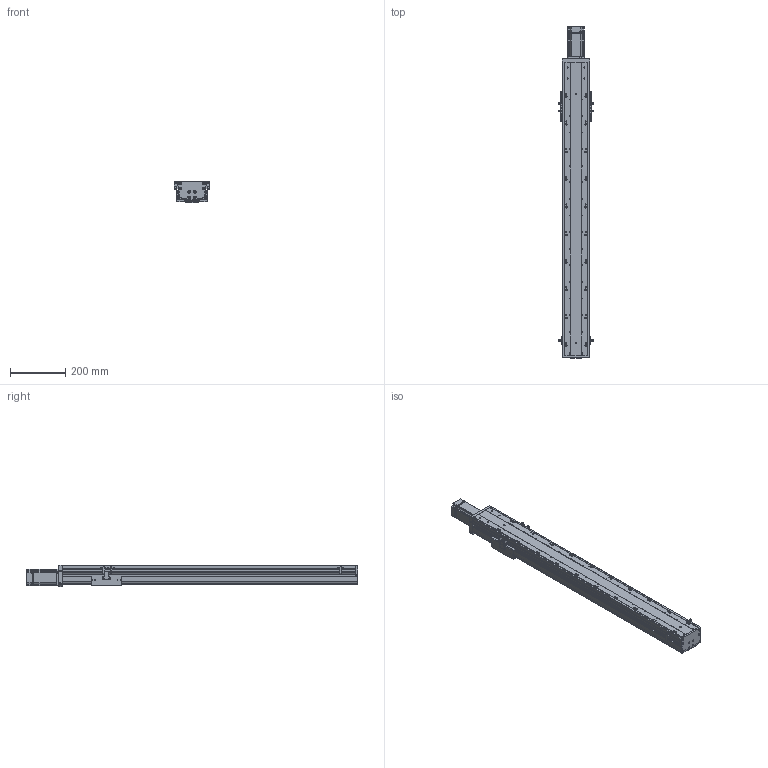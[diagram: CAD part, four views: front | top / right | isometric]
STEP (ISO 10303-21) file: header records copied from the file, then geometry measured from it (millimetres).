
FILE_DESCRIPTION (( 'STEP AP203' ), '1' );
FILE_NAME ('RY100FBS-L1610-300-MK(15双轨）.SLDASM_800.step', '2021-02-22T08:44:31', ( '盈信电脑' ), ( '东莞市道滘镇水果街19号' ), 'SwSTEP 2.0', 'SolidWorks 2012', '' );
FILE_SCHEMA (( 'CONFIG_CONTROL_DESIGN' ));
Length unit declared in the file: millimetre
Products named in the file (12): 覜茼ん672; RY100FB-遵嫖萇覜茼え; RY100FBS-L1610-300-MK(15双轨）.SLDASM_800; RY100FBS-后盖板(15双轨）; 15; RY100FBS-前盖板(15双轨）; 侂狟400W侜督萇儂; RY100FBS-铝滑块（16丝杆）; 滅袉蝶18-15; RY100FBS-300-上盖板(15双轨）_800; 滅袉蝶18-24; RY100FBS-300型材底座(15双轨）_800
Assembly tree (18 placements, depth 3):
  RY100FBS-L1610-300-MK(15双轨）.SLDASM_800
    RY100FBS-300型材底座(15双轨）_800
    滅袉蝶18-24  x2
    滅袉蝶18-15
    RY100FBS-铝滑块（16丝杆）
    RY100FBS-300-上盖板(15双轨）_800
    RY100FBS-前盖板(15双轨）
    RY100FBS-后盖板(15双轨）
    侂狟400W侜督萇儂
      15
    RY100FB-遵嫖萇覜茼え  x2
    覜茼ん672  x6
Bounding box: 127.4 x 1200.5 x 78.75 mm (x, y, z)
Volume: 2739738.8 mm3; surface area: 972646.5 mm2
Topology: 17 solids, 17 shells, 1841 faces, 5263 edges, 3452 vertices
Faces by surface type: plane 881, cylinder 828, cone 114, bspline 18
Entity records: 49356 total; most frequent: CARTESIAN_POINT 10329, DIRECTION 7978, ORIENTED_EDGE 7870, EDGE_CURVE 3935, AXIS2_PLACEMENT_3D 2899, VERTEX_POINT 2600, VECTOR 2180, LINE 2180
